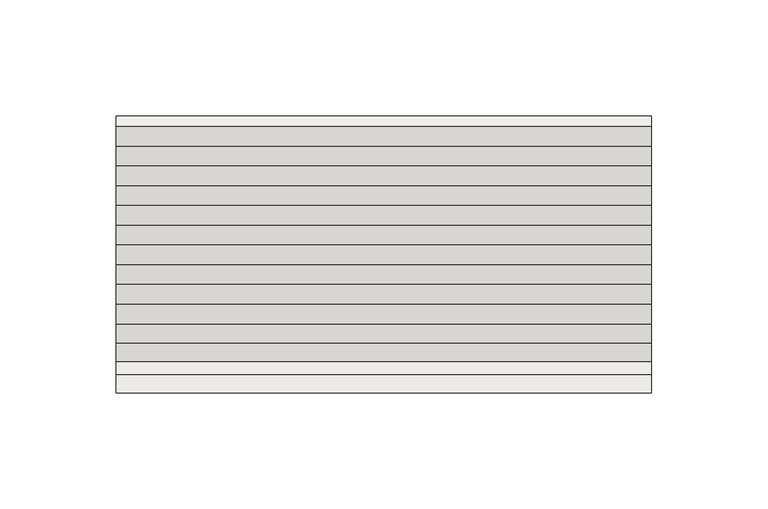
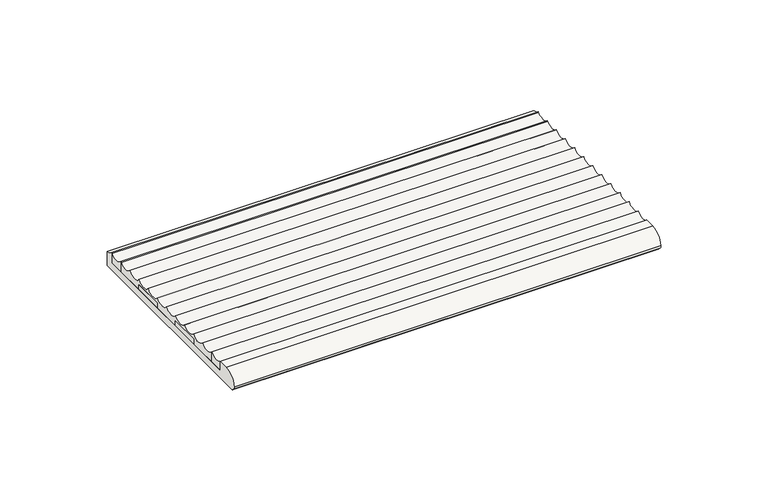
"""IFC4 building model written with IfcOpenShell, lengths in millimetres: slab geometry, ROSA GRES_003 : Pieza 003_Aqua_Marino_Anti-Slip."""

import ifcopenshell
import ifcopenshell.guid

model = None  # the IFC model being written
_history = None  # IfcOwnerHistory: only IFC2X3 demands one
_inside = {}  # id of a spatial element -> (the spatial element, [elements in it])
_under = {}  # id of a project, library or spatial element -> (it, [spatial elements below it])
_declared = {}  # id of a project -> (the project, [libraries it declares])
_typed = {}  # id of a type object -> (the type object, [elements of that type])
_made_of = {}  # id of a material, layer set ... -> (it, [elements and type objects made of it])


def new_model(schema):
    """Start an empty IFC model of exactly this schema.

    Asked for "IFC4X3", IfcOpenShell would pick the latest addendum, in which some entities
    have other attributes; the version numbers below select the first issue.
    IFC2X3 requires an IfcOwnerHistory on every rooted entity: one is made here for all.
    """
    global model, _history
    if schema == "IFC4X3":
        model = ifcopenshell.file(schema_version=(4, 3, 0, 0))
    else:
        model = ifcopenshell.file(schema=schema)
    _inside.clear()
    _under.clear()
    _declared.clear()
    _typed.clear()
    _made_of.clear()
    _history = None
    if model.schema == "IFC2X3":
        org = make("IfcOrganization", Name="unknown")
        user = make(
            "IfcPersonAndOrganization",
            ThePerson=make("IfcPerson", FamilyName="unknown"),
            TheOrganization=org,
        )
        app = make(
            "IfcApplication",
            ApplicationDeveloper=org,
            Version="unknown",
            ApplicationFullName="unknown",
            ApplicationIdentifier="unknown",
        )
        _history = make(
            "IfcOwnerHistory",
            OwningUser=user,
            OwningApplication=app,
            ChangeAction="ADDED",
            CreationDate=0,
        )
    return model


def make(cls, **values):
    """One entity of the class cls with the attributes given. An attribute that is None is left unset."""
    return model.create_entity(
        cls, **{name: value for name, value in values.items() if value is not None}
    )


def rooted(cls, **values):
    """An entity with a GlobalId (a new one), such as an element, a storey or a relation."""
    return make(cls, GlobalId=ifcopenshell.guid.new(), OwnerHistory=_history, **values)


def si_unit(unit_type, name, prefix=None):
    """IfcSIUnit, for example si_unit("LENGTHUNIT", "METRE", prefix="MILLI")."""
    return make("IfcSIUnit", UnitType=unit_type, Prefix=prefix, Name=name)


def assignment(units):
    """IfcUnitAssignment: the units of a project."""
    return None if units is None else make("IfcUnitAssignment", Units=units)


def point(xyz):
    """IfcCartesianPoint."""
    return None if xyz is None else make("IfcCartesianPoint", Coordinates=xyz)


def direction(xyz):
    """IfcDirection."""
    return None if xyz is None else make("IfcDirection", DirectionRatios=xyz)


def frame(location, z_axis=None, x_axis=None):
    """IfcAxis2Placement3D, a coordinate frame: its origin and axes. An axis left out is left unset."""
    return make(
        "IfcAxis2Placement3D",
        Location=point(location),
        Axis=direction(z_axis),
        RefDirection=direction(x_axis),
    )


def frame_2d(location, x_axis=None):
    """IfcAxis2Placement2D, a coordinate frame in the plane: its origin and x axis."""
    return make(
        "IfcAxis2Placement2D", Location=point(location), RefDirection=direction(x_axis)
    )


def origin():
    """The frame at (0, 0, 0) with its axes left unset."""
    return frame((0.0, 0.0, 0.0))


def place(relative_to, where):
    """IfcLocalPlacement: puts the frame where relative to a parent placement (None: the world)."""
    return make(
        "IfcLocalPlacement", PlacementRelTo=relative_to, RelativePlacement=where
    )


def context(
    kind, dimensions, precision=None, world=None, true_north=None, identifier=None
):
    """IfcGeometricRepresentationContext, for example the 3D "Model" context."""
    return make(
        "IfcGeometricRepresentationContext",
        ContextIdentifier=identifier,
        ContextType=kind,
        CoordinateSpaceDimension=dimensions,
        Precision=precision,
        WorldCoordinateSystem=world,
        TrueNorth=true_north,
    )


def project(units=None, contexts=None):
    """IfcProject with its units and contexts."""
    return rooted(
        "IfcProject",
        Name="project",
        RepresentationContexts=contexts,
        UnitsInContext=assignment(units),
    )


def spatial(cls, under=None, at=None, **own):
    """A site, building, storey or space (cls), placed at a placement, below another one or the project."""
    s = rooted(cls, ObjectPlacement=at, **own)
    if under is not None:
        _under.setdefault(under.id(), (under, []))[1].append(s)
    return s


def polyline(points):
    """IfcPolyline through the points."""
    return make("IfcPolyline", Points=[point(p) for p in points])


def circle_curve(where, radius):
    """IfcCircle in the frame where."""
    return make("IfcCircle", Position=where, Radius=radius)


def trimmed(basis, trim1, trim2, sense, master):
    """IfcTrimmedCurve: the piece of a basis curve between two trims."""
    return make(
        "IfcTrimmedCurve",
        BasisCurve=basis,
        Trim1=trim1,
        Trim2=trim2,
        SenseAgreement=sense,
        MasterRepresentation=master,
    )


def segment(curve, same_sense, transition):
    """IfcCompositeCurveSegment."""
    return make(
        "IfcCompositeCurveSegment",
        Transition=transition,
        SameSense=same_sense,
        ParentCurve=curve,
    )


def composite_curve(segments, self_intersect=None):
    """IfcCompositeCurve: segments joined end to end."""
    return make("IfcCompositeCurve", Segments=segments, SelfIntersect=self_intersect)


def outline(outer, holes=None, kind="AREA"):
    """IfcArbitraryClosedProfileDef: a profile drawn as a closed curve; with holes, ...WithVoids."""
    if holes is None:
        return make("IfcArbitraryClosedProfileDef", ProfileType=kind, OuterCurve=outer)
    return make(
        "IfcArbitraryProfileDefWithVoids",
        ProfileType=kind,
        OuterCurve=outer,
        InnerCurves=holes,
    )


def extrude(swept, where, along, depth):
    """IfcExtrudedAreaSolid: the profile swept, set in the frame where, extruded along a direction by depth."""
    return make(
        "IfcExtrudedAreaSolid",
        SweptArea=swept,
        Position=where,
        ExtrudedDirection=direction(along),
        Depth=depth,
    )


def shape(context_of_items, identifier, shape_type, items):
    """IfcShapeRepresentation: the items that make up one representation, for example the "Body"."""
    return make(
        "IfcShapeRepresentation",
        ContextOfItems=context_of_items,
        RepresentationIdentifier=identifier,
        RepresentationType=shape_type,
        Items=items,
    )


def source(mapping_origin, context_of_items, identifier, shape_type, items):
    """IfcRepresentationMap: a shape defined once, which mapped items show again and again."""
    return make(
        "IfcRepresentationMap",
        MappingOrigin=mapping_origin,
        MappedRepresentation=shape(context_of_items, identifier, shape_type, items),
    )


def transform(
    local_origin,
    x_axis=None,
    y_axis=None,
    z_axis=None,
    scale=None,
    scale2=None,
    scale3=None,
    uniform=True,
):
    """IfcCartesianTransformationOperator3D, or its non-uniform kind. x_axis, y_axis, z_axis: its Axis1, 2, 3."""
    if uniform:
        return make(
            "IfcCartesianTransformationOperator3D",
            Axis1=direction(x_axis),
            Axis2=direction(y_axis),
            LocalOrigin=point(local_origin),
            Scale=scale,
            Axis3=direction(z_axis),
        )
    return make(
        "IfcCartesianTransformationOperator3DnonUniform",
        Axis1=direction(x_axis),
        Axis2=direction(y_axis),
        LocalOrigin=point(local_origin),
        Scale=scale,
        Axis3=direction(z_axis),
        Scale2=scale2,
        Scale3=scale3,
    )


def mapped(mapping_source, mapping_target):
    """IfcMappedItem: shows the shape of a source again, moved by a transform."""
    return make(
        "IfcMappedItem", MappingSource=mapping_source, MappingTarget=mapping_target
    )


def made_of(thing, what):
    """Note that an element or type object is made of a material, layer set ...; save() writes the relation."""
    if what is not None:
        _made_of.setdefault(what.id(), (what, []))[1].append(thing)
    return thing


def element(
    cls,
    number,
    at=None,
    inside=None,
    cuts=None,
    type_object=None,
    material=None,
    context=None,
    identifier="Body",
    shape_type=None,
    held_by="IfcProductDefinitionShape",
    body=None,
    shapes=None,
    **own,
):
    """One element of the class cls, such as IfcWall. Its Tag is "e" and its number.

    at: its placement. inside: the storey or other place that contains it. cuts: it is an
    opening in that element (IfcRelVoidsElement). A single representation is given by context,
    identifier, shape_type and body (its items); several are given by shapes. held_by: the class
    of the entity that holds the representations. save() writes the other relations.
    """
    e = rooted(cls, Tag="e%d" % number, ObjectPlacement=at, **own)
    if body is not None:
        shapes = [shape(context, identifier, shape_type, body)]
    if shapes is not None:
        e.Representation = make(held_by, Representations=shapes)
    if inside is not None:
        _inside.setdefault(inside.id(), (inside, []))[1].append(e)
    if cuts is not None:
        rooted(
            "IfcRelVoidsElement", RelatingBuildingElement=cuts, RelatedOpeningElement=e
        )
    if type_object is not None:
        _typed.setdefault(type_object.id(), (type_object, []))[1].append(e)
    return made_of(e, material)


def aggregate(whole, parts):
    """IfcRelAggregates: a whole, such as a stair, and the parts it consists of."""
    return rooted("IfcRelAggregates", RelatingObject=whole, RelatedObjects=parts)


def save(model, path):
    """Write the relations noted so far, then the file.

    IfcRelAggregates (storeys below a building ...), IfcRelContainedInSpatialStructure (elements
    in a storey), IfcRelDefinesByType, IfcRelAssociatesMaterial and IfcRelDeclares: one each for
    every whole, place, type object, material and project.
    """
    for whole, parts in _under.values():
        aggregate(whole, parts)
    for where, things in _inside.values():
        rooted(
            "IfcRelContainedInSpatialStructure",
            RelatedElements=things,
            RelatingStructure=where,
        )
    for kind, things in _typed.values():
        rooted("IfcRelDefinesByType", RelatedObjects=things, RelatingType=kind)
    for what, things in _made_of.values():
        rooted("IfcRelAssociatesMaterial", RelatedObjects=things, RelatingMaterial=what)
    for by, libraries in _declared.values():
        rooted("IfcRelDeclares", RelatingContext=by, RelatedDefinitions=libraries)
    model.write(path)


def slab_503e0185(model_context):
    return source(origin(), model_context, "Body", "SweptSolid", [
        extrude(outline(composite_curve([segment(polyline([(7.6419163, 9.4971975), (13.1748183, 9.4971975), (13.1748183, 4.0921512), (114.6668888, 4.0921512), (114.6668888, 10.0184612)]), True, "CONTINUOUS"), segment(trimmed(circle_curve(frame_2d((118.9168888, 13.6516438)), 5.5912893), [point((114.6668888, 10.0184612))], [point((118.9168888, 8.0603545))], True, "CARTESIAN"), True, "CONTINUOUS"), segment(polyline([(118.9168888, 8.0603545), (118.9168888, 0.0), (1.8518481, 0.0), (0.5422562, 1.309592)]), True, "CONTINUOUS"), segment(trimmed(circle_curve(frame_2d((1.9104791, 2.6778148)), 1.9349594), [point((0.5422562, 1.309592))], [point((0.0, 2.9846331))], False, "CARTESIAN"), True, "CONTINUOUS"), segment(trimmed(circle_curve(frame_2d((7.6419163, 1.7573601)), 7.7398374), [point((0.0, 2.9846331))], [point((7.6419163, 9.4971975))], False, "CARTESIAN"), True, "CONTINUOUS")], self_intersect=False)), frame((0.0, 0.0, 0.0), z_axis=(1.0, 0.0, 0.0), x_axis=(0.0, 1.0, 0.0)), (0.0, 0.0, 1.0), 230.0265886),
        extrude(outline(composite_curve([segment(trimmed(circle_curve(frame_2d((110.4168888, 13.6516438)), 5.5912893), [point((106.1668888, 10.0184612))], [point((114.6668888, 10.0184612))], True, "CARTESIAN"), True, "CONTINUOUS"), segment(polyline([(114.6668888, 10.0184612), (114.6668888, 4.0921512), (106.1668888, 4.0921512), (106.1668888, 10.0184612)]), True, "CONTINUOUS")], self_intersect=False)), frame((0.0, 0.0, 0.0), z_axis=(1.0, 0.0, 0.0), x_axis=(0.0, 1.0, 0.0)), (0.0, 0.0, 1.0), 230.0265886),
        extrude(outline(polyline([(230.0265886, 89.1668888), (230.0265886, 72.1668888), (0.0, 72.1668888), (0.0, 89.1668888), (230.0265886, 89.1668888)])), frame((0.0, 0.0, 4.0921512), z_axis=(0.0, 0.0, 1.0), x_axis=(1.0, 0.0, 0.0)), (0.0, 0.0, 1.0), 2.92631),
        extrude(outline(polyline([(230.0265886, 55.1668888), (230.0265886, 38.1668888), (0.0, 38.1668888), (0.0, 55.1668888), (230.0265886, 55.1668888)])), frame((0.0, 0.0, 4.0921512), z_axis=(0.0, 0.0, 1.0), x_axis=(1.0, 0.0, 0.0)), (0.0, 0.0, 1.0), 2.92631),
        extrude(outline(composite_curve([segment(trimmed(circle_curve(frame_2d((16.9168888, 13.6516438)), 5.5912893), [point((13.1748183, 9.4971975))], [point((21.1668888, 10.0184612))], True, "CARTESIAN"), True, "CONTINUOUS"), segment(polyline([(21.1668888, 10.0184612), (21.1668888, 4.0921512), (13.1748183, 4.0921512), (13.1748183, 9.4971975)]), True, "CONTINUOUS")], self_intersect=False)), frame((0.0, 0.0, 0.0), z_axis=(1.0, 0.0, 0.0), x_axis=(0.0, 1.0, 0.0)), (0.0, 0.0, 1.0), 230.0265886),
        extrude(outline(composite_curve([segment(trimmed(circle_curve(frame_2d((25.4168888, 13.6553338)), 5.5912893), [point((21.1668888, 10.0221512))], [point((29.6668888, 10.0221512))], True, "CARTESIAN"), True, "CONTINUOUS"), segment(trimmed(circle_curve(frame_2d((33.9168888, 13.6553338)), 5.5912893), [point((29.6668888, 10.0221512))], [point((38.1668888, 10.0221512))], True, "CARTESIAN"), True, "CONTINUOUS"), segment(trimmed(circle_curve(frame_2d((42.4168888, 13.6553338)), 5.5912893), [point((38.1668888, 10.0221512))], [point((46.6668888, 10.0221512))], True, "CARTESIAN"), True, "CONTINUOUS"), segment(trimmed(circle_curve(frame_2d((50.9168888, 13.6553338)), 5.5912893), [point((46.6668888, 10.0221512))], [point((55.1668888, 10.0221512))], True, "CARTESIAN"), True, "CONTINUOUS"), segment(trimmed(circle_curve(frame_2d((59.4168888, 13.6553338)), 5.5912893), [point((55.1668888, 10.0221512))], [point((63.6668888, 10.0221512))], True, "CARTESIAN"), True, "CONTINUOUS"), segment(trimmed(circle_curve(frame_2d((67.9168888, 13.6553338)), 5.5912893), [point((63.6668888, 10.0221512))], [point((72.1668888, 10.0221512))], True, "CARTESIAN"), True, "CONTINUOUS"), segment(trimmed(circle_curve(frame_2d((76.4168888, 13.6553338)), 5.5912893), [point((72.1668888, 10.0221512))], [point((80.6668888, 10.0221512))], True, "CARTESIAN"), True, "CONTINUOUS"), segment(trimmed(circle_curve(frame_2d((84.9168888, 13.6553338)), 5.5912893), [point((80.6668888, 10.0221512))], [point((89.1668888, 10.0221512))], True, "CARTESIAN"), True, "CONTINUOUS"), segment(trimmed(circle_curve(frame_2d((93.4168888, 13.6553338)), 5.5912893), [point((89.1668888, 10.0221512))], [point((97.6668888, 10.0221512))], True, "CARTESIAN"), True, "CONTINUOUS"), segment(trimmed(circle_curve(frame_2d((101.9168888, 13.6553338)), 5.5912893), [point((97.6668888, 10.0221512))], [point((106.1668888, 10.0221512))], True, "CARTESIAN"), True, "CONTINUOUS"), segment(polyline([(106.1668888, 10.0221512), (106.1668888, 4.0921512), (89.1668888, 4.0921512), (89.1668888, 7.0184612), (72.1668888, 7.0184612), (72.1668888, 4.0921512), (55.1668888, 4.0921512), (55.1668888, 7.0184612), (38.1668888, 7.0184612), (38.1668888, 4.0921512), (21.1668888, 4.0921512), (21.1668888, 10.0221512)]), True, "CONTINUOUS")], self_intersect=False)), frame((0.0, 0.0, 0.0), z_axis=(1.0, 0.0, 0.0), x_axis=(0.0, 1.0, 0.0)), (0.0, 0.0, 1.0), 230.0265886),
    ])


if __name__ == "__main__":
    model = new_model("IFC4")
    model_context = context("Model", 3, world=origin())
    ifc_project = project(units=[si_unit("LENGTHUNIT", "METRE", prefix="MILLI")], contexts=[model_context])
    site = spatial("IfcSite", under=ifc_project)
    building = spatial("IfcBuilding", under=site)
    placement = place(None, origin())
    slab_shape = slab_503e0185(model_context)
    element("IfcSlab", 1, ObjectType="ROSA GRES_003 : Pieza 003_Aqua_Marino_Anti-Slip", at=placement, inside=building, context=model_context, shape_type="MappedRepresentation", body=[
        mapped(slab_shape, transform((0.0, 0.0, 0.0), x_axis=(1.0, 0.0, 0.0), y_axis=(0.0, 1.0, 0.0), z_axis=(0.0, 0.0, 1.0))),
    ])
    save(model, "model.ifc")
